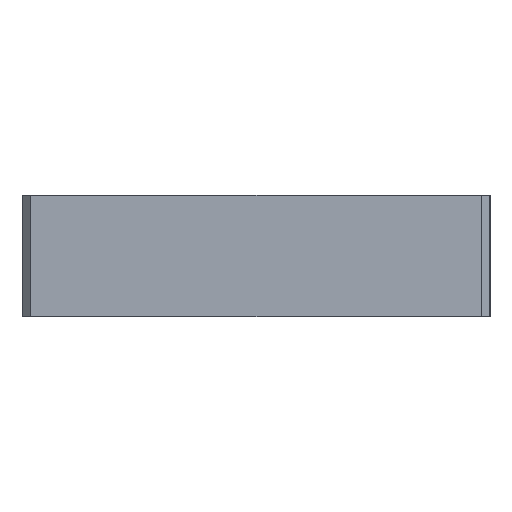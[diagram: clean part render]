
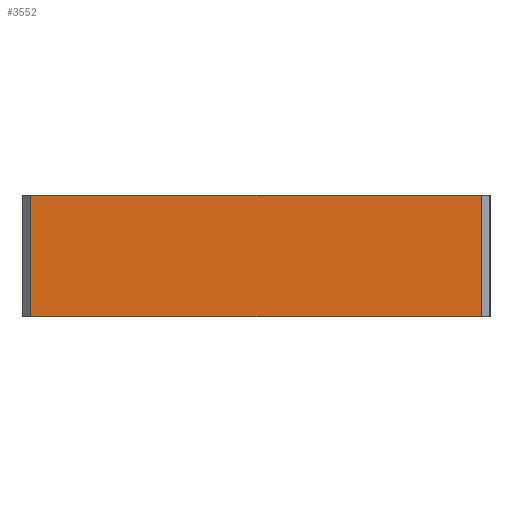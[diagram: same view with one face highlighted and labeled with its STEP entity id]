
A CAD part, left-side view. The second image highlights one B-rep face of the part: STEP entity #3552.
In plain terms, the highlighted planar face has unit normal (-1, 0, 0).
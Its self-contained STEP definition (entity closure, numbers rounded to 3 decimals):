
#346=FACE_OUTER_BOUND('',#546,.T.);
#546=EDGE_LOOP('',(#2365,#2366,#2367,#2368));
#768=LINE('',#4491,#1110);
#771=LINE('',#4497,#1113);
#772=LINE('',#4499,#1114);
#773=LINE('',#4500,#1115);
#1110=VECTOR('',#3902,10.);
#1113=VECTOR('',#3907,10.);
#1114=VECTOR('',#3908,10.);
#1115=VECTOR('',#3909,10.);
#1452=VERTEX_POINT('',#4488);
#1453=VERTEX_POINT('',#4490);
#1455=VERTEX_POINT('',#4496);
#1456=VERTEX_POINT('',#4498);
#1816=EDGE_CURVE('',#1452,#1453,#768,.T.);
#1819=EDGE_CURVE('',#1452,#1455,#771,.T.);
#1820=EDGE_CURVE('',#1456,#1455,#772,.T.);
#1821=EDGE_CURVE('',#1456,#1453,#773,.T.);
#2365=ORIENTED_EDGE('',*,*,#1816,.F.);
#2366=ORIENTED_EDGE('',*,*,#1819,.T.);
#2367=ORIENTED_EDGE('',*,*,#1820,.F.);
#2368=ORIENTED_EDGE('',*,*,#1821,.T.);
#3454=PLANE('',#3776);
#3552=ADVANCED_FACE('',(#346),#3454,.T.);
#3776=AXIS2_PLACEMENT_3D('',#4495,#3905,#3906);
#3902=DIRECTION('',(0.,0.,-1.));
#3905=DIRECTION('center_axis',(-1.,0.,0.));
#3906=DIRECTION('ref_axis',(0.,0.,1.));
#3907=DIRECTION('',(0.,1.,0.));
#3908=DIRECTION('',(0.,0.,1.));
#3909=DIRECTION('',(0.,-1.,0.));
#4488=CARTESIAN_POINT('',(-38.982,-21.694,7.));
#4490=CARTESIAN_POINT('',(-38.982,-21.694,0.));
#4491=CARTESIAN_POINT('',(-38.982,-21.694,0.));
#4495=CARTESIAN_POINT('Origin',(-38.982,-22.194,0.));
#4496=CARTESIAN_POINT('',(-38.982,4.306,7.));
#4497=CARTESIAN_POINT('',(-38.982,4.806,7.));
#4498=CARTESIAN_POINT('',(-38.982,4.306,0.));
#4499=CARTESIAN_POINT('',(-38.982,4.306,0.));
#4500=CARTESIAN_POINT('',(-38.982,4.806,0.));
